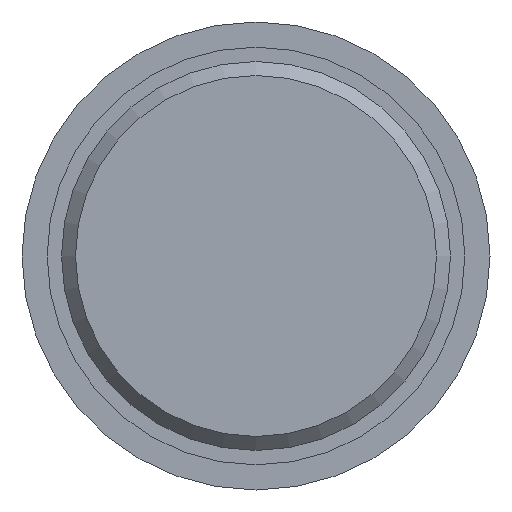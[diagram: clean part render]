
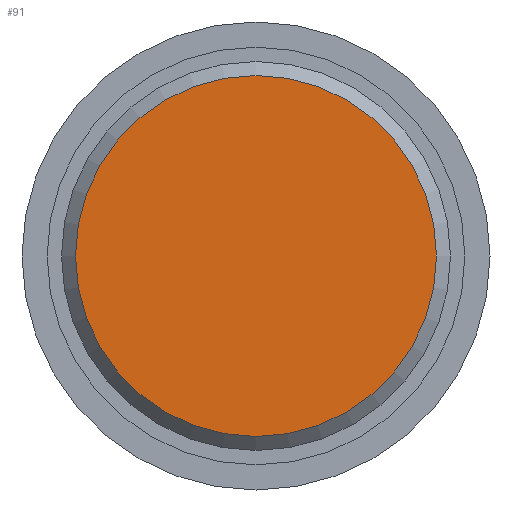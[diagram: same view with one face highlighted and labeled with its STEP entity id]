
A CAD part, front view. The second image highlights one B-rep face of the part: STEP entity #91.
In plain terms, the highlighted planar face has unit normal (0, -1, 0).
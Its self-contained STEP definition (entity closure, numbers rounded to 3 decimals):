
#91 = ADVANCED_FACE( '', ( #138 ), #139, .F. );
#138 = FACE_OUTER_BOUND( '', #193, .T. );
#139 = PLANE( '', #194 );
#193 = EDGE_LOOP( '', ( #308 ) );
#194 = AXIS2_PLACEMENT_3D( '', #309, #310, #311 );
#308 = ORIENTED_EDGE( '', *, *, #359, .T. );
#309 = CARTESIAN_POINT( '', ( 15.425, 0., 0. ) );
#310 = DIRECTION( '', ( 0., 1., 0. ) );
#311 = DIRECTION( '', ( 0., 0., 1. ) );
#359 = EDGE_CURVE( '', #411, #411, #412, .T. );
#411 = VERTEX_POINT( '', #485 );
#412 = CIRCLE( '', #486, 15.425 );
#485 = CARTESIAN_POINT( '', ( 0., 0., -15.425 ) );
#486 = AXIS2_PLACEMENT_3D( '', #538, #539, #540 );
#538 = CARTESIAN_POINT( '', ( 0., 0., 0. ) );
#539 = DIRECTION( '', ( 0., -1., 0. ) );
#540 = DIRECTION( '', ( 0., 0., -1. ) );
